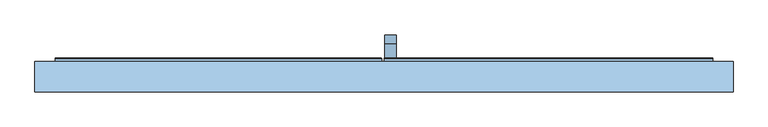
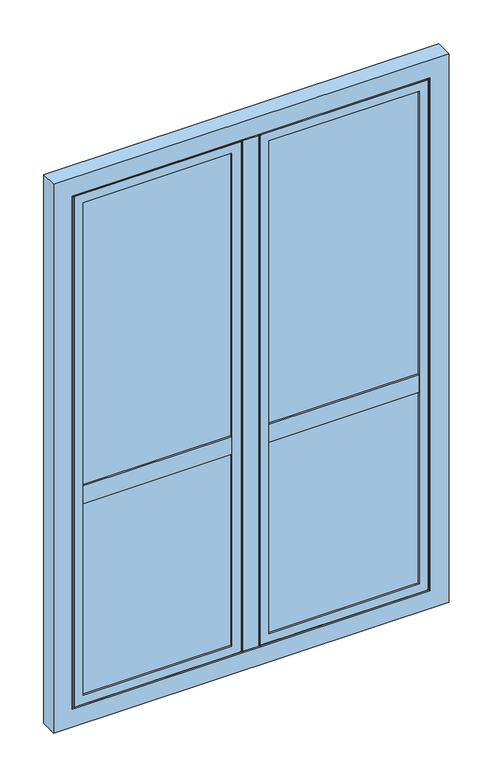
"""IFC4 building model written with IfcOpenShell, lengths in millimetres: window geometry, 900.04.011 : 900.04.011."""

from ifc_helpers import new_model, si_unit, frame, origin, place, context, project, spatial, polyline, circle_curve, ellipse_curve, outline, extrude, faceted_brep, source, transform, mapped, element, save
from ifc_brep_helpers import plane_surface, cylinder_surface, advanced_brep


def window_418a830e(model_context):
    return source(origin(), model_context, "Body", "SolidModel", [
        extrude(outline(polyline([(-22.4982697, 25.5101586), (6.0023191, 25.5101586), (6.0023191, -34.4877906), (27.9994394, -34.4877906), (27.9994394, -39.9913207), (-33.0005606, -39.9913207), (-33.0005606, -34.4877906), (-22.4983917, -34.4877906), (-22.4982697, 25.5101586)])), frame((0.0, 0.0, 886.5032713), z_axis=(0.0, 0.0, 1.0), x_axis=(1.0, 0.0, 0.0)), (0.0, 0.0, 1.0), 2046.9934575),
        advanced_brep(
        [(-706.4943766, 30.9980762, 2966.4943766), (-706.4943766, 30.9980762, 853.5056234), (-706.4943766, 25.0022411, 853.5056234), (-706.4943766, 25.0022411, 2966.4943766), (-5.0, 25.0022411, 853.5056234), (-5.0, 25.0022411, 2966.4943766), (-688.9942671, 25.0022411, 2948.9942671), (-22.5001095, 25.0022411, 2948.9942671), (-22.5001095, 25.0022411, 871.0057329), (-688.9942671, 25.0022411, 871.0057329), (-5.0, 30.9980762, 853.5056234), (-704.4943766, 32.9980762, 2964.4943766), (-704.4943766, 32.9980762, 855.5056234), (-688.9942671, -34.4972938, 871.0057329), (-688.9942671, -34.4972938, 2948.9942671), (-22.5001095, -34.4972938, 871.0057329), (-22.5001095, -34.4972938, 2948.9942671), (-673.5166787, -34.4972938, 2933.5166787), (-37.9776978, -34.4972938, 2933.5166787), (-37.9776978, -34.4972938, 886.4833213), (-673.5166787, -34.4972938, 886.4833213), (-673.5166787, -39.2009026, 886.4833213), (-673.5166787, -39.2009026, 2933.5166787), (-672.7166787, -40.0009026, 887.2833213), (-672.7166787, -40.0009026, 2932.7166787), (-37.9776978, -39.2009026, 886.4833213), (-637.9942611, -40.0009026, 2897.9942611), (-637.9942611, -40.0009026, 922.0057389), (-637.9942611, -33.0034813, 922.0057389), (-637.9942611, -33.0034813, 1690.0), (-637.9942611, -39.5003601, 1690.0), (-637.9942611, -39.5003601, 1761.5999386), (-637.9942611, -33.0034813, 1761.5999386), (-637.9942611, -33.0034813, 2897.9942611), (-652.9945196, -33.0034813, 907.0054804), (-652.9945196, -33.0034813, 1705.0002585), (-58.499857, -33.0034813, 1705.0002585), (-58.499857, -33.0034813, 907.0054804), (-73.5001155, -33.0034813, 922.0057389), (-73.5001155, -33.0034813, 1690.0), (-58.499857, -33.0034813, 2912.9945196), (-58.499857, -33.0034813, 1746.9998155), (-652.9945196, -33.0034813, 1746.9998155), (-652.9945196, -33.0034813, 2912.9945196), (-73.5001155, -33.0034813, 1761.5999386), (-73.5001155, -33.0034813, 2897.9942611), (-73.5001155, -40.0009026, 922.0057389), (-38.7776978, -40.0009026, 887.2833213), (-38.7776978, -40.0009026, 2932.7166787), (-73.5001155, -40.0009026, 2897.9942611), (-652.9945196, 4.9964364, 1746.9998155), (-652.9945196, 4.9964364, 2912.9945196), (-652.9945196, 4.9964364, 1705.0002585), (-652.9945196, 4.9964364, 907.0054804), (-58.499857, 4.9964364, 1746.9998155), (-58.499857, 4.9964364, 2912.9945196), (-637.9942611, 4.9964364, 2897.9942611), (-73.5001155, 4.9964364, 2897.9942611), (-73.5001155, 4.9964364, 1761.5999386), (-637.9942611, 4.9964364, 1761.5999386), (-58.499857, 4.9964364, 907.0054804), (-58.499857, 4.9964364, 1705.0002585), (-73.5001155, 4.9964364, 922.0057389), (-637.9942611, 4.9964364, 922.0057389), (-637.9942611, 4.9964364, 1690.0), (-73.5001155, 4.9964364, 1690.0), (-637.9942611, 25.0, 1761.5999386), (-637.9942611, 25.0, 1690.0), (-637.9942611, 32.9980762, 922.0057389), (-637.9942611, 32.9980762, 2897.9942611), (-7.0, 32.9980762, 2964.4943766), (-7.0, 32.9980762, 855.5056234), (-73.5001155, 32.9980762, 922.0057389), (-73.5001155, 32.9980762, 2897.9942611), (-5.0, 30.9980762, 2966.4943766), (-37.9776978, -39.2009026, 2933.5166787), (-73.5001155, -39.5003601, 1761.5999386), (-73.5001155, -39.5003601, 1690.0), (-73.5001155, 25.0, 1690.0), (-73.5001155, 25.0, 1761.5999386)],
        [
            (0, 1),
            (1, 2),
            (2, 3),
            (3, 0),
            (2, 4),
            (4, 5),
            (5, 3),
            (6, 7),
            (7, 8),
            (8, 9),
            (9, 6),
            (1, 10),
            (10, 4),
            (0, 11, ellipse_curve(frame((-704.4943766, 30.9980762, 2964.4943766), z_axis=(-0.7071067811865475, 0.0, -0.7071067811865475), x_axis=(-0.7071067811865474, 0.0, 0.7071067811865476)), 2.8284271, 2.0)),
            (11, 12),
            (12, 1, ellipse_curve(frame((-704.4943766, 30.9980762, 855.5056234), z_axis=(-0.7071067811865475, 0.0, 0.7071067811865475), x_axis=(0.7071067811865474, 0.0, 0.7071067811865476)), 2.8284271, 2.0)),
            (9, 13),
            (13, 14),
            (14, 6),
            (13, 15),
            (15, 16),
            (16, 14),
            (17, 18),
            (18, 19),
            (19, 20),
            (20, 17),
            (8, 15),
            (20, 21),
            (21, 22),
            (22, 17),
            (21, 23, ellipse_curve(frame((-672.7166787, -39.2009026, 887.2833213), z_axis=(-0.7071067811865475, 0.0, 0.7071067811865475), x_axis=(0.7071067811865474, 0.0, 0.7071067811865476)), 1.1313708, 0.8)),
            (23, 24),
            (24, 22, ellipse_curve(frame((-672.7166787, -39.2009026, 2932.7166787), z_axis=(-0.7071067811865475, 0.0, -0.7071067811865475), x_axis=(-0.7071067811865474, 0.0, 0.7071067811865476)), 1.1313708, 0.8)),
            (19, 25),
            (25, 21),
            (26, 27),
            (27, 28),
            (28, 29),
            (29, 30),
            (30, 31),
            (31, 32),
            (32, 33),
            (33, 26),
            (34, 35),
            (35, 36),
            (36, 37),
            (37, 34),
            (38, 39),
            (39, 29),
            (28, 38),
            (40, 41),
            (41, 42),
            (42, 43),
            (43, 40),
            (32, 44),
            (44, 45),
            (45, 33),
            (27, 46),
            (46, 38),
            (23, 47),
            (47, 48),
            (48, 24),
            (26, 49),
            (49, 46),
            (42, 50),
            (50, 51),
            (51, 43),
            (52, 35),
            (34, 53),
            (53, 52),
            (50, 54),
            (54, 55),
            (55, 51),
            (56, 57),
            (57, 58),
            (58, 59),
            (59, 56),
            (60, 61),
            (61, 52),
            (53, 60),
            (62, 63),
            (63, 64),
            (64, 65),
            (65, 62),
            (37, 60),
            (59, 66),
            (66, 67),
            (67, 64),
            (63, 68),
            (68, 69),
            (69, 56),
            (11, 70),
            (70, 71),
            (71, 12),
            (68, 72),
            (72, 73),
            (73, 69),
            (62, 72),
            (10, 74),
            (74, 5),
            (71, 10, ellipse_curve(frame((-7.0, 30.9980762, 855.5056234), z_axis=(-0.7071067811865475, 0.0, -0.7071067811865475), x_axis=(-0.7071067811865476, 0.0, 0.7071067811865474)), 2.8284271, 2.0)),
            (7, 16),
            (25, 47, ellipse_curve(frame((-38.7776978, -39.2009026, 887.2833213), z_axis=(-0.7071067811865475, 0.0, -0.7071067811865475), x_axis=(-0.7071067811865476, 0.0, 0.7071067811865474)), 1.1313708, 0.8)),
            (18, 75),
            (75, 25),
            (49, 45),
            (44, 76),
            (76, 77),
            (77, 39),
            (36, 61),
            (54, 41),
            (40, 55),
            (65, 78),
            (78, 79),
            (79, 58),
            (57, 73),
            (70, 74, ellipse_curve(frame((-7.0, 30.9980762, 2964.4943766), z_axis=(0.7071067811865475, 0.0, -0.7071067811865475), x_axis=(-0.7071067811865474, 0.0, -0.7071067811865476)), 2.8284271, 2.0)),
            (75, 48, ellipse_curve(frame((-38.7776978, -39.2009026, 2932.7166787), z_axis=(0.7071067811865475, 0.0, -0.7071067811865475), x_axis=(-0.7071067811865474, 0.0, -0.7071067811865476)), 1.1313708, 0.8)),
            (74, 0),
            (22, 75),
            (67, 78),
            (79, 66),
            (31, 76),
            (30, 77),
        ],
        [
            plane_surface(frame((-706.4943766, 25.0022411, 2966.4943766), z_axis=(-1.0, 0.0, 0.0), x_axis=(0.0, 0.0, -1.0))),
            plane_surface(frame((-22.5001095, 25.0022411, 2948.9942671), z_axis=(0.0, -1.0, 0.0), x_axis=(-1.0, 0.0, 0.0))),
            plane_surface(frame((-706.4943766, 25.0022411, 853.5056234), z_axis=(0.0, 0.0, -1.0), x_axis=(1.0, 0.0, 0.0))),
            cylinder_surface(frame((-704.4943766, 30.9980762, 3010.0), z_axis=(0.0, 0.0, 1.0), x_axis=(-1.0, 0.0, 0.0)), 2.0),
            plane_surface(frame((-688.9942671, -34.4972938, 2948.9942671), z_axis=(-1.0, 0.0, 0.0), x_axis=(0.0, 0.0, -1.0))),
            plane_surface(frame((-37.9776978, -34.4972938, 2933.5166787), z_axis=(0.0, -1.0, 0.0), x_axis=(-1.0, 0.0, 0.0))),
            plane_surface(frame((-688.9942671, -34.4972938, 871.0057329), z_axis=(0.0, 0.0, -1.0), x_axis=(1.0, 0.0, 0.0))),
            plane_surface(frame((-673.5166787, -39.2009026, 2933.5166787), z_axis=(-1.0, 0.0, 0.0), x_axis=(0.0, 0.0, -1.0))),
            cylinder_surface(frame((-672.7166787, -39.2009026, 3010.0), z_axis=(0.0, 0.0, 1.0), x_axis=(0.0, -1.0, 0.0)), 0.8),
            plane_surface(frame((-673.5166787, -39.2009026, 886.4833213), z_axis=(0.0, 0.0, -1.0), x_axis=(1.0, 0.0, 0.0))),
            plane_surface(frame((-637.9942611, -33.0034813, 2897.9942611), z_axis=(1.0, 0.0, 0.0), x_axis=(0.0, 0.0, -1.0))),
            plane_surface(frame((-58.499857, -33.0034813, 2912.9945196), z_axis=(0.0, 1.0, 0.0), x_axis=(-1.0, 0.0, 0.0))),
            plane_surface(frame((-637.9942611, -33.0034813, 922.0057389), z_axis=(0.0, 0.0, 1.0), x_axis=(1.0, 0.0, 0.0))),
            plane_surface(frame((-73.5001155, -40.0009026, 2897.9942611), z_axis=(0.0, -1.0, 0.0), x_axis=(-1.0, 0.0, 0.0))),
            plane_surface(frame((-652.9945196, 4.9964364, 2912.9945196), z_axis=(1.0, 0.0, 0.0), x_axis=(0.0, 0.0, -1.0))),
            plane_surface(frame((-73.5001155, 4.9964364, 2897.9942611), z_axis=(0.0, -1.0, 0.0), x_axis=(-1.0, 0.0, 0.0))),
            plane_surface(frame((-652.9945196, 4.9964364, 907.0054804), z_axis=(0.0, 0.0, 1.0), x_axis=(1.0, 0.0, 0.0))),
            plane_surface(frame((-637.9942611, 32.9980762, 2897.9942611), z_axis=(1.0, 0.0, 0.0), x_axis=(0.0, 0.0, -1.0))),
            plane_surface(frame((-7.0, 32.9980762, 2964.4943766), z_axis=(0.0, 1.0, 0.0), x_axis=(-1.0, 0.0, 0.0))),
            plane_surface(frame((-637.9942611, 32.9980762, 922.0057389), z_axis=(0.0, 0.0, 1.0), x_axis=(1.0, 0.0, 0.0))),
            plane_surface(frame((-5.0, 25.0022411, 853.5056234), z_axis=(1.0, 0.0, 0.0), x_axis=(0.0, 0.0, 1.0))),
            cylinder_surface(frame((-750.0, 30.9980762, 855.5056234), z_axis=(-1.0, 0.0, 0.0), x_axis=(0.0, 0.0, -1.0)), 2.0),
            plane_surface(frame((-22.5001095, -34.4972938, 871.0057329), z_axis=(1.0, 0.0, 0.0), x_axis=(0.0, 0.0, 1.0))),
            cylinder_surface(frame((-750.0, -39.2009026, 887.2833213), z_axis=(-1.0, 0.0, 0.0), x_axis=(0.0, -1.0, 0.0)), 0.8),
            plane_surface(frame((-37.9776978, -39.2009026, 886.4833213), z_axis=(1.0, 0.0, 0.0), x_axis=(0.0, 0.0, 1.0))),
            plane_surface(frame((-73.5001155, -33.0034813, 922.0057389), z_axis=(-1.0, 0.0, 0.0), x_axis=(0.0, 0.0, 1.0))),
            plane_surface(frame((-58.499857, 4.9964364, 907.0054804), z_axis=(-1.0, 0.0, 0.0), x_axis=(0.0, 0.0, 1.0))),
            plane_surface(frame((-73.5001155, 32.9980762, 922.0057389), z_axis=(-1.0, 0.0, 0.0), x_axis=(0.0, 0.0, 1.0))),
            cylinder_surface(frame((-7.0, 30.9980762, 810.0), z_axis=(0.0, 0.0, -1.0), x_axis=(1.0, 0.0, 0.0)), 2.0),
            cylinder_surface(frame((-38.7776978, -39.2009026, 810.0), z_axis=(0.0, 0.0, -1.0), x_axis=(0.0, -1.0, 0.0)), 0.8),
            plane_surface(frame((-5.0, 25.0022411, 2966.4943766), z_axis=(0.0, 0.0, 1.0), x_axis=(-1.0, 0.0, 0.0))),
            plane_surface(frame((-22.5001095, -34.4972938, 2948.9942671), z_axis=(0.0, 0.0, 1.0), x_axis=(-1.0, 0.0, 0.0))),
            plane_surface(frame((-37.9776978, -39.2009026, 2933.5166787), z_axis=(0.0, 0.0, 1.0), x_axis=(-1.0, 0.0, 0.0))),
            plane_surface(frame((-73.5001155, -33.0034813, 2897.9942611), z_axis=(0.0, 0.0, -1.0), x_axis=(-1.0, 0.0, 0.0))),
            plane_surface(frame((-58.499857, 4.9964364, 2912.9945196), z_axis=(0.0, 0.0, -1.0), x_axis=(-1.0, 0.0, 0.0))),
            plane_surface(frame((-73.5001155, 32.9980762, 2897.9942611), z_axis=(0.0, 0.0, -1.0), x_axis=(-1.0, 0.0, 0.0))),
            cylinder_surface(frame((38.5056234, 30.9980762, 2964.4943766), z_axis=(1.0, 0.0, 0.0), x_axis=(0.0, 0.0, 1.0)), 2.0),
            cylinder_surface(frame((38.5056234, -39.2009026, 2932.7166787), z_axis=(1.0, 0.0, 0.0), x_axis=(0.0, -1.0, 0.0)), 0.8),
            plane_surface(frame((-652.9945696, -32.9965039, 1705.0002585), z_axis=(0.0, 0.0, -1.0), x_axis=(1.0, 0.0, 0.0))),
            plane_surface(frame((-652.9945696, 5.0034961, 1690.0), z_axis=(0.0, 0.0, -1.0), x_axis=(1.0, 0.0, 0.0))),
            plane_surface(frame((-652.9945696, 25.0, 1761.5999386), z_axis=(0.0, 0.0, 1.0), x_axis=(1.0, 0.0, 0.0))),
            plane_surface(frame((-652.9945696, 5.0034961, 1746.9998155), z_axis=(0.0, 0.0, 1.0), x_axis=(1.0, 0.0, 0.0))),
            plane_surface(frame((-652.9945696, -32.9965039, 1761.5999386), z_axis=(0.0, 0.0, 1.0), x_axis=(1.0, 0.0, 0.0))),
            plane_surface(frame((-652.9945696, -39.5003601, 1761.5999386), z_axis=(0.0, -1.0, 0.0), x_axis=(1.0, 0.0, 0.0))),
            plane_surface(frame((-652.9945696, -39.5003601, 1690.0), z_axis=(0.0, 0.0, -1.0), x_axis=(1.0, 0.0, 0.0))),
            plane_surface(frame((-652.9945696, 25.0, 1690.0), z_axis=(0.0, 1.0, 0.0), x_axis=(1.0, 0.0, 0.0))),
        ],
        [
            (0, [[1, 2, 3, 4]]),
            (1, [[5, 6, 7, -3], [8, 9, 10, 11]]),
            (2, [[12, 13, -5, -2]]),
            (3, [[14, 15, 16, -1]]),
            (4, [[-11, 17, 18, 19]]),
            (5, [[20, 21, 22, -18], [23, 24, 25, 26]]),
            (6, [[-10, 27, -20, -17]]),
            (7, [[-26, 28, 29, 30]]),
            (8, [[31, 32, 33, -29]]),
            (9, [[-25, 34, 35, -28]]),
            (10, [[36, 37, 38, 39, 40, 41, 42, 43]]),
            (11, [[44, 45, 46, 47], [48, 49, -38, 50]]),
            (11, [[51, 52, 53, 54], [-42, 55, 56, 57]]),
            (12, [[58, 59, -50, -37]]),
            (13, [[-32, 60, 61, 62], [63, 64, -58, -36]]),
            (14, [[65, 66, 67, -53]]),
            (14, [[68, -44, 69, 70]]),
            (15, [[-66, 71, 72, 73], [74, 75, 76, 77]]),
            (15, [[78, 79, -70, 80], [81, 82, 83, 84]]),
            (16, [[-47, 85, -80, -69]]),
            (17, [[-77, 86, 87, 88, -82, 89, 90, 91]]),
            (18, [[-15, 92, 93, 94], [95, 96, 97, -90]]),
            (19, [[-81, 98, -95, -89]]),
            (20, [[99, 100, -6, -13]]),
            (21, [[-16, -94, 101, -12]]),
            (22, [[-9, 102, -21, -27]]),
            (23, [[103, -60, -31, -35]]),
            (24, [[-24, 104, 105, -34]]),
            (25, [[-64, 106, -56, 107, 108, 109, -48, -59]]),
            (26, [[110, -78, -85, -46]]),
            (26, [[111, -51, 112, -72]]),
            (27, [[-84, 113, 114, 115, -75, 116, -96, -98]]),
            (28, [[-101, -93, 117, -99]]),
            (29, [[118, -61, -103, -105]]),
            (30, [[-7, -100, 119, -4]]),
            (31, [[-22, -102, -8, -19]]),
            (32, [[120, -104, -23, -30]]),
            (33, [[-57, -106, -63, -43]]),
            (34, [[-73, -112, -54, -67]]),
            (35, [[-97, -116, -74, -91]]),
            (36, [[-117, -92, -14, -119]]),
            (37, [[-33, -62, -118, -120]]),
            (38, [[-68, -79, -110, -45]]),
            (39, [[-88, 121, -113, -83]]),
            (40, [[-115, 122, -86, -76]]),
            (41, [[-111, -71, -65, -52]]),
            (42, [[-41, 123, -107, -55]]),
            (43, [[-40, 124, -108, -123]]),
            (44, [[-109, -124, -39, -49]]),
            (45, [[-87, -122, -114, -121]]),
        ],
    ),
        extrude(outline(polyline([(-58.499807, 4.9964364), (-58.499807, -33.0034813), (-652.9945696, -33.0034813), (-652.9945696, 4.9964364), (-58.499807, 4.9964364)])), frame((0.0, 0.0, 1746.9998155), z_axis=(0.0, 0.0, 1.0), x_axis=(1.0, 0.0, 0.0)), (0.0, 0.0, 1.0), 1165.9947541),
        extrude(outline(polyline([(-652.9945696, -33.0034813), (-652.9945696, 4.9964364), (-58.499807, 4.9964364), (-58.499807, -33.0034813), (-652.9945696, -33.0034813)])), frame((0.0, 0.0, 907.0054304), z_axis=(0.0, 0.0, 1.0), x_axis=(1.0, 0.0, 0.0)), (0.0, 0.0, 1.0), 782.9945696),
        advanced_brep(
        [(1.400143, 32.9958929, 1690.0), (26.400143, 32.9958929, 1690.0), (1.400143, 62.9958929, 1690.0), (26.400143, 62.9958929, 1690.0), (1.400143, 82.9958929, 1690.0), (26.400143, 82.9958929, 1690.0), (26.400143, 82.9958929, 1490.0), (1.400143, 82.9958929, 1490.0), (1.400143, 62.9958929, 1490.0), (26.400143, 62.9958929, 1490.0)],
        [
            (0, 1, circle_curve(frame((13.900143, 32.9958929, 1690.0), z_axis=(0.0, -1.0, 0.0), x_axis=(1.0, 0.0, 0.0)), 12.5)),
            (1, 0, circle_curve(frame((13.900143, 32.9958929, 1690.0), z_axis=(0.0, -1.0, 0.0), x_axis=(1.0, 0.0, 0.0)), 12.5)),
            (0, 2),
            (2, 3, circle_curve(frame((13.900143, 62.9958929, 1690.0), z_axis=(0.0, -1.0, 0.0), x_axis=(1.0, 0.0, 0.0)), 12.5)),
            (3, 1),
            (3, 2, circle_curve(frame((13.900143, 62.9958929, 1690.0), z_axis=(0.0, -1.0, 0.0), x_axis=(1.0, 0.0, 0.0)), 12.5)),
            (4, 5, circle_curve(frame((13.900143, 82.9958929, 1690.0), z_axis=(0.0, 1.0, 0.0), x_axis=(1.0, 0.0, 0.0)), 12.5)),
            (5, 6),
            (6, 7, circle_curve(frame((13.900143, 82.9958929, 1490.0), z_axis=(0.0, 1.0, 0.0), x_axis=(1.0, 0.0, 0.0)), 12.5)),
            (7, 4),
            (2, 8),
            (8, 9, circle_curve(frame((13.900143, 62.9958929, 1490.0), z_axis=(0.0, -1.0, 0.0), x_axis=(1.0, 0.0, 0.0)), 12.5)),
            (9, 3),
            (7, 8),
            (2, 4),
            (6, 9),
            (5, 3),
        ],
        [
            plane_surface(frame((26.400143, 32.9958929, 1690.0), z_axis=(0.0, -1.0, 0.0), x_axis=(0.0, 0.0, -1.0))),
            cylinder_surface(frame((13.900143, 32.9958929, 1690.0), z_axis=(0.0, 1.0, 0.0), x_axis=(1.0, 0.0, 0.0)), 12.5),
            plane_surface(frame((1.400143, 82.9958929, 1690.0), z_axis=(0.0, 1.0, 0.0), x_axis=(0.0, 0.0, -1.0))),
            plane_surface(frame((1.400143, 62.9958929, 1690.0), z_axis=(0.0, -1.0, 0.0), x_axis=(0.0, 0.0, 1.0))),
            plane_surface(frame((1.400143, 82.9958929, 1690.0), z_axis=(-1.0, 0.0, 0.0), x_axis=(0.0, -1.0, 0.0))),
            cylinder_surface(frame((13.900143, 62.9958929, 1490.0), z_axis=(0.0, 1.0, 0.0), x_axis=(1.0, 0.0, 0.0)), 12.5),
            plane_surface(frame((26.400143, 82.9958929, 1490.0), z_axis=(1.0, 0.0, 0.0), x_axis=(0.0, -1.0, 0.0))),
            cylinder_surface(frame((13.900143, 62.9958929, 1690.0), z_axis=(0.0, 1.0, 0.0), x_axis=(1.0, 0.0, 0.0)), 12.5),
        ],
        [
            (0, [[1, 2]]),
            (1, [[3, 4, 5, -1]]),
            (1, [[-5, 6, -3, -2]]),
            (2, [[7, 8, 9, 10]]),
            (3, [[-4, 11, 12, 13]]),
            (4, [[14, -11, 15, -10]]),
            (5, [[16, -12, -14, -9]]),
            (6, [[17, -13, -16, -8]]),
            (7, [[-15, -6, -17, -7]]),
        ],
    ),
        advanced_brep(
        [(0.000193, 30.9980762, 2966.4943766), (0.000193, 30.9980762, 853.5056234), (0.000193, 25.0022411, 853.5056234), (0.000193, 25.0022411, 2966.4943766), (706.4943766, 25.0022411, 853.5056234), (706.4943766, 25.0022411, 2966.4943766), (17.5003025, 25.0022411, 2948.9942671), (688.9942671, 25.0022411, 2948.9942671), (688.9942671, 25.0022411, 871.0057329), (17.5003025, 25.0022411, 871.0057329), (706.4943766, 30.9980762, 853.5056234), (2.000193, 32.9980762, 2964.4943766), (2.000193, 32.9980762, 855.5056234), (17.5003025, -34.4972938, 871.0057329), (17.5003025, -34.4972938, 2948.9942671), (688.9942671, -34.4972938, 871.0057329), (688.9942671, -34.4972938, 2948.9942671), (32.9778909, -34.4972938, 2933.5166787), (673.5166787, -34.4972938, 2933.5166787), (673.5166787, -34.4972938, 886.4833213), (32.9778909, -34.4972938, 886.4833213), (32.9778909, -39.2009026, 886.4833213), (32.9778909, -39.2009026, 2933.5166787), (33.7778909, -40.0009026, 887.2833213), (33.7778909, -40.0009026, 2932.7166787), (673.5166787, -39.2009026, 886.4833213), (68.5003085, -40.0009026, 2897.9942611), (68.5003085, -40.0009026, 922.0057389), (68.5003085, -33.0034813, 922.0057389), (68.5003085, -33.0034813, 1690.0), (68.5003085, -39.5003601, 1690.0), (68.5003085, -39.5003601, 1761.5999386), (68.5003085, -33.0034813, 1761.5999386), (68.5003085, -33.0034813, 2897.9942611), (53.5000501, -33.0034813, 907.0054804), (53.5000501, -33.0034813, 1705.0002585), (652.9945196, -33.0034813, 1705.0002585), (652.9945196, -33.0034813, 907.0054804), (637.9942611, -33.0034813, 922.0057389), (637.9942611, -33.0034813, 1690.0), (652.9945196, -33.0034813, 2912.9945196), (652.9945196, -33.0034813, 1746.9998155), (53.5000501, -33.0034813, 1746.9998155), (53.5000501, -33.0034813, 2912.9945196), (637.9942611, -33.0034813, 1761.5999386), (637.9942611, -33.0034813, 2897.9942611), (637.9942611, -40.0009026, 922.0057389), (672.7166787, -40.0009026, 887.2833213), (672.7166787, -40.0009026, 2932.7166787), (637.9942611, -40.0009026, 2897.9942611), (53.5000501, 4.9964364, 1746.9998155), (53.5000501, 4.9964364, 2912.9945196), (53.5000501, 4.9964364, 1705.0002585), (53.5000501, 4.9964364, 907.0054804), (652.9945196, 4.9964364, 1746.9998155), (652.9945196, 4.9964364, 2912.9945196), (68.5003085, 4.9964364, 2897.9942611), (637.9942611, 4.9964364, 2897.9942611), (637.9942611, 4.9964364, 1761.5999386), (68.5003085, 4.9964364, 1761.5999386), (652.9945196, 4.9964364, 907.0054804), (652.9945196, 4.9964364, 1705.0002585), (637.9942611, 4.9964364, 922.0057389), (68.5003085, 4.9964364, 922.0057389), (68.5003085, 4.9964364, 1690.0), (637.9942611, 4.9964364, 1690.0), (68.5003085, 25.0, 1761.5999386), (68.5003085, 25.0, 1690.0), (68.5003085, 32.9980762, 922.0057389), (68.5003085, 32.9980762, 2897.9942611), (704.4943766, 32.9980762, 2964.4943766), (704.4943766, 32.9980762, 855.5056234), (637.9942611, 32.9980762, 922.0057389), (637.9942611, 32.9980762, 2897.9942611), (706.4943766, 30.9980762, 2966.4943766), (673.5166787, -39.2009026, 2933.5166787), (637.9942611, -39.5003601, 1761.5999386), (637.9942611, -39.5003601, 1690.0), (637.9942611, 25.0, 1690.0), (637.9942611, 25.0, 1761.5999386)],
        [
            (0, 1),
            (1, 2),
            (2, 3),
            (3, 0),
            (2, 4),
            (4, 5),
            (5, 3),
            (6, 7),
            (7, 8),
            (8, 9),
            (9, 6),
            (1, 10),
            (10, 4),
            (0, 11, ellipse_curve(frame((2.000193, 30.9980762, 2964.4943766), z_axis=(-0.7071067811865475, 0.0, -0.7071067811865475), x_axis=(-0.7071067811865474, 0.0, 0.7071067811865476)), 2.8284271, 2.0)),
            (11, 12),
            (12, 1, ellipse_curve(frame((2.000193, 30.9980762, 855.5056234), z_axis=(-0.7071067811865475, 0.0, 0.7071067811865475), x_axis=(0.7071067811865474, 0.0, 0.7071067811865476)), 2.8284271, 2.0)),
            (9, 13),
            (13, 14),
            (14, 6),
            (13, 15),
            (15, 16),
            (16, 14),
            (17, 18),
            (18, 19),
            (19, 20),
            (20, 17),
            (8, 15),
            (20, 21),
            (21, 22),
            (22, 17),
            (21, 23, ellipse_curve(frame((33.7778909, -39.2009026, 887.2833213), z_axis=(-0.7071067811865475, 0.0, 0.7071067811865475), x_axis=(0.7071067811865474, 0.0, 0.7071067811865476)), 1.1313708, 0.8)),
            (23, 24),
            (24, 22, ellipse_curve(frame((33.7778909, -39.2009026, 2932.7166787), z_axis=(-0.7071067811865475, 0.0, -0.7071067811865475), x_axis=(-0.7071067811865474, 0.0, 0.7071067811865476)), 1.1313708, 0.8)),
            (19, 25),
            (25, 21),
            (26, 27),
            (27, 28),
            (28, 29),
            (29, 30),
            (30, 31),
            (31, 32),
            (32, 33),
            (33, 26),
            (34, 35),
            (35, 36),
            (36, 37),
            (37, 34),
            (38, 39),
            (39, 29),
            (28, 38),
            (40, 41),
            (41, 42),
            (42, 43),
            (43, 40),
            (32, 44),
            (44, 45),
            (45, 33),
            (27, 46),
            (46, 38),
            (23, 47),
            (47, 48),
            (48, 24),
            (26, 49),
            (49, 46),
            (42, 50),
            (50, 51),
            (51, 43),
            (52, 35),
            (34, 53),
            (53, 52),
            (50, 54),
            (54, 55),
            (55, 51),
            (56, 57),
            (57, 58),
            (58, 59),
            (59, 56),
            (60, 61),
            (61, 52),
            (53, 60),
            (62, 63),
            (63, 64),
            (64, 65),
            (65, 62),
            (37, 60),
            (59, 66),
            (66, 67),
            (67, 64),
            (63, 68),
            (68, 69),
            (69, 56),
            (11, 70),
            (70, 71),
            (71, 12),
            (68, 72),
            (72, 73),
            (73, 69),
            (62, 72),
            (10, 74),
            (74, 5),
            (71, 10, ellipse_curve(frame((704.4943766, 30.9980762, 855.5056234), z_axis=(-0.7071067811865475, 0.0, -0.7071067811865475), x_axis=(-0.7071067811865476, 0.0, 0.7071067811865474)), 2.8284271, 2.0)),
            (7, 16),
            (25, 47, ellipse_curve(frame((672.7166787, -39.2009026, 887.2833213), z_axis=(-0.7071067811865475, 0.0, -0.7071067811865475), x_axis=(-0.7071067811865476, 0.0, 0.7071067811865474)), 1.1313708, 0.8)),
            (18, 75),
            (75, 25),
            (49, 45),
            (44, 76),
            (76, 77),
            (77, 39),
            (36, 61),
            (54, 41),
            (40, 55),
            (65, 78),
            (78, 79),
            (79, 58),
            (57, 73),
            (70, 74, ellipse_curve(frame((704.4943766, 30.9980762, 2964.4943766), z_axis=(0.7071067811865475, 0.0, -0.7071067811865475), x_axis=(-0.7071067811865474, 0.0, -0.7071067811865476)), 2.8284271, 2.0)),
            (75, 48, ellipse_curve(frame((672.7166787, -39.2009026, 2932.7166787), z_axis=(0.7071067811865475, 0.0, -0.7071067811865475), x_axis=(-0.7071067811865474, 0.0, -0.7071067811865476)), 1.1313708, 0.8)),
            (74, 0),
            (22, 75),
            (79, 66),
            (31, 76),
            (30, 77),
            (67, 78),
        ],
        [
            plane_surface(frame((0.000193, 25.0022411, 2966.4943766), z_axis=(-1.0, 0.0, 0.0), x_axis=(0.0, 0.0, -1.0))),
            plane_surface(frame((688.9942671, 25.0022411, 2948.9942671), z_axis=(0.0, -1.0, 0.0), x_axis=(-1.0, 0.0, 0.0))),
            plane_surface(frame((0.000193, 25.0022411, 853.5056234), z_axis=(0.0, 0.0, -1.0), x_axis=(1.0, 0.0, 0.0))),
            cylinder_surface(frame((2.000193, 30.9980762, 3010.0), z_axis=(0.0, 0.0, 1.0), x_axis=(-1.0, 0.0, 0.0)), 2.0),
            plane_surface(frame((17.5003025, -34.4972938, 2948.9942671), z_axis=(-1.0, 0.0, 0.0), x_axis=(0.0, 0.0, -1.0))),
            plane_surface(frame((673.5166787, -34.4972938, 2933.5166787), z_axis=(0.0, -1.0, 0.0), x_axis=(-1.0, 0.0, 0.0))),
            plane_surface(frame((17.5003025, -34.4972938, 871.0057329), z_axis=(0.0, 0.0, -1.0), x_axis=(1.0, 0.0, 0.0))),
            plane_surface(frame((32.9778909, -39.2009026, 2933.5166787), z_axis=(-1.0, 0.0, 0.0), x_axis=(0.0, 0.0, -1.0))),
            cylinder_surface(frame((33.7778909, -39.2009026, 3010.0), z_axis=(0.0, 0.0, 1.0), x_axis=(0.0, -1.0, 0.0)), 0.8),
            plane_surface(frame((32.9778909, -39.2009026, 886.4833213), z_axis=(0.0, 0.0, -1.0), x_axis=(1.0, 0.0, 0.0))),
            plane_surface(frame((68.5003085, -33.0034813, 2897.9942611), z_axis=(1.0, 0.0, 0.0), x_axis=(0.0, 0.0, -1.0))),
            plane_surface(frame((652.9945196, -33.0034813, 2912.9945196), z_axis=(0.0, 1.0, 0.0), x_axis=(-1.0, 0.0, 0.0))),
            plane_surface(frame((68.5003085, -33.0034813, 922.0057389), z_axis=(0.0, 0.0, 1.0), x_axis=(1.0, 0.0, 0.0))),
            plane_surface(frame((637.9942611, -40.0009026, 2897.9942611), z_axis=(0.0, -1.0, 0.0), x_axis=(-1.0, 0.0, 0.0))),
            plane_surface(frame((53.5000501, 4.9964364, 2912.9945196), z_axis=(1.0, 0.0, 0.0), x_axis=(0.0, 0.0, -1.0))),
            plane_surface(frame((637.9942611, 4.9964364, 2897.9942611), z_axis=(0.0, -1.0, 0.0), x_axis=(-1.0, 0.0, 0.0))),
            plane_surface(frame((53.5000501, 4.9964364, 907.0054804), z_axis=(0.0, 0.0, 1.0), x_axis=(1.0, 0.0, 0.0))),
            plane_surface(frame((68.5003085, 32.9980762, 2897.9942611), z_axis=(1.0, 0.0, 0.0), x_axis=(0.0, 0.0, -1.0))),
            plane_surface(frame((704.4943766, 32.9980762, 2964.4943766), z_axis=(0.0, 1.0, 0.0), x_axis=(-1.0, 0.0, 0.0))),
            plane_surface(frame((68.5003085, 32.9980762, 922.0057389), z_axis=(0.0, 0.0, 1.0), x_axis=(1.0, 0.0, 0.0))),
            plane_surface(frame((706.4943766, 25.0022411, 853.5056234), z_axis=(1.0, 0.0, 0.0), x_axis=(0.0, 0.0, 1.0))),
            cylinder_surface(frame((-43.5054304, 30.9980762, 855.5056234), z_axis=(-1.0, 0.0, 0.0), x_axis=(0.0, 0.0, -1.0)), 2.0),
            plane_surface(frame((688.9942671, -34.4972938, 871.0057329), z_axis=(1.0, 0.0, 0.0), x_axis=(0.0, 0.0, 1.0))),
            cylinder_surface(frame((-43.5054304, -39.2009026, 887.2833213), z_axis=(-1.0, 0.0, 0.0), x_axis=(0.0, -1.0, 0.0)), 0.8),
            plane_surface(frame((673.5166787, -39.2009026, 886.4833213), z_axis=(1.0, 0.0, 0.0), x_axis=(0.0, 0.0, 1.0))),
            plane_surface(frame((637.9942611, -33.0034813, 922.0057389), z_axis=(-1.0, 0.0, 0.0), x_axis=(0.0, 0.0, 1.0))),
            plane_surface(frame((652.9945196, 4.9964364, 907.0054804), z_axis=(-1.0, 0.0, 0.0), x_axis=(0.0, 0.0, 1.0))),
            plane_surface(frame((637.9942611, 32.9980762, 922.0057389), z_axis=(-1.0, 0.0, 0.0), x_axis=(0.0, 0.0, 1.0))),
            cylinder_surface(frame((704.4943766, 30.9980762, 810.0), z_axis=(0.0, 0.0, -1.0), x_axis=(1.0, 0.0, 0.0)), 2.0),
            cylinder_surface(frame((672.7166787, -39.2009026, 810.0), z_axis=(0.0, 0.0, -1.0), x_axis=(0.0, -1.0, 0.0)), 0.8),
            plane_surface(frame((706.4943766, 25.0022411, 2966.4943766), z_axis=(0.0, 0.0, 1.0), x_axis=(-1.0, 0.0, 0.0))),
            plane_surface(frame((688.9942671, -34.4972938, 2948.9942671), z_axis=(0.0, 0.0, 1.0), x_axis=(-1.0, 0.0, 0.0))),
            plane_surface(frame((673.5166787, -39.2009026, 2933.5166787), z_axis=(0.0, 0.0, 1.0), x_axis=(-1.0, 0.0, 0.0))),
            plane_surface(frame((637.9942611, -33.0034813, 2897.9942611), z_axis=(0.0, 0.0, -1.0), x_axis=(-1.0, 0.0, 0.0))),
            plane_surface(frame((652.9945196, 4.9964364, 2912.9945196), z_axis=(0.0, 0.0, -1.0), x_axis=(-1.0, 0.0, 0.0))),
            plane_surface(frame((637.9942611, 32.9980762, 2897.9942611), z_axis=(0.0, 0.0, -1.0), x_axis=(-1.0, 0.0, 0.0))),
            cylinder_surface(frame((750.0, 30.9980762, 2964.4943766), z_axis=(1.0, 0.0, 0.0), x_axis=(0.0, 0.0, 1.0)), 2.0),
            cylinder_surface(frame((750.0, -39.2009026, 2932.7166787), z_axis=(1.0, 0.0, 0.0), x_axis=(0.0, -1.0, 0.0)), 0.8),
            plane_surface(frame((652.9945696, 5.0034961, 1761.5999386), z_axis=(0.0, 0.0, 1.0), x_axis=(-1.0, 0.0, 0.0))),
            plane_surface(frame((652.9945696, -32.9965039, 1746.9998155), z_axis=(0.0, 0.0, 1.0), x_axis=(-1.0, 0.0, 0.0))),
            plane_surface(frame((652.9945696, -39.5003601, 1761.5999386), z_axis=(0.0, 0.0, 1.0), x_axis=(-1.0, 0.0, 0.0))),
            plane_surface(frame((652.9945696, -39.5003601, 1690.0), z_axis=(0.0, -1.0, 0.0), x_axis=(-1.0, 0.0, 0.0))),
            plane_surface(frame((652.9945696, -32.9965039, 1690.0), z_axis=(0.0, 0.0, -1.0), x_axis=(-1.0, 0.0, 0.0))),
            plane_surface(frame((652.9945696, 5.0034961, 1705.0002585), z_axis=(0.0, 0.0, -1.0), x_axis=(-1.0, 0.0, 0.0))),
            plane_surface(frame((652.9945696, 25.0, 1690.0), z_axis=(0.0, 0.0, -1.0), x_axis=(-1.0, 0.0, 0.0))),
            plane_surface(frame((652.9945696, 25.0, 1761.5999386), z_axis=(0.0, 1.0, 0.0), x_axis=(-1.0, 0.0, 0.0))),
        ],
        [
            (0, [[1, 2, 3, 4]]),
            (1, [[5, 6, 7, -3], [8, 9, 10, 11]]),
            (2, [[12, 13, -5, -2]]),
            (3, [[14, 15, 16, -1]]),
            (4, [[-11, 17, 18, 19]]),
            (5, [[20, 21, 22, -18], [23, 24, 25, 26]]),
            (6, [[-10, 27, -20, -17]]),
            (7, [[-26, 28, 29, 30]]),
            (8, [[31, 32, 33, -29]]),
            (9, [[-25, 34, 35, -28]]),
            (10, [[36, 37, 38, 39, 40, 41, 42, 43]]),
            (11, [[44, 45, 46, 47], [48, 49, -38, 50]]),
            (11, [[51, 52, 53, 54], [-42, 55, 56, 57]]),
            (12, [[58, 59, -50, -37]]),
            (13, [[-32, 60, 61, 62], [63, 64, -58, -36]]),
            (14, [[65, 66, 67, -53]]),
            (14, [[68, -44, 69, 70]]),
            (15, [[-66, 71, 72, 73], [74, 75, 76, 77]]),
            (15, [[78, 79, -70, 80], [81, 82, 83, 84]]),
            (16, [[-47, 85, -80, -69]]),
            (17, [[-77, 86, 87, 88, -82, 89, 90, 91]]),
            (18, [[-15, 92, 93, 94], [95, 96, 97, -90]]),
            (19, [[-81, 98, -95, -89]]),
            (20, [[99, 100, -6, -13]]),
            (21, [[-16, -94, 101, -12]]),
            (22, [[-9, 102, -21, -27]]),
            (23, [[103, -60, -31, -35]]),
            (24, [[-24, 104, 105, -34]]),
            (25, [[-64, 106, -56, 107, 108, 109, -48, -59]]),
            (26, [[110, -78, -85, -46]]),
            (26, [[111, -51, 112, -72]]),
            (27, [[-84, 113, 114, 115, -75, 116, -96, -98]]),
            (28, [[-101, -93, 117, -99]]),
            (29, [[118, -61, -103, -105]]),
            (30, [[-7, -100, 119, -4]]),
            (31, [[-22, -102, -8, -19]]),
            (32, [[120, -104, -23, -30]]),
            (33, [[-57, -106, -63, -43]]),
            (34, [[-73, -112, -54, -67]]),
            (35, [[-97, -116, -74, -91]]),
            (36, [[-117, -92, -14, -119]]),
            (37, [[-33, -62, -118, -120]]),
            (38, [[-115, 121, -86, -76]]),
            (39, [[-111, -71, -65, -52]]),
            (40, [[-41, 122, -107, -55]]),
            (41, [[-108, -122, -40, 123]]),
            (42, [[-109, -123, -39, -49]]),
            (43, [[-68, -79, -110, -45]]),
            (44, [[-88, 124, -113, -83]]),
            (45, [[-114, -124, -87, -121]]),
        ],
    ),
        extrude(outline(polyline([(652.9945696, 4.9964364), (652.9945696, -33.0034813), (53.5, -33.0034813), (53.5, 4.9964364), (652.9945696, 4.9964364)])), frame((0.0, 0.0, 1746.9998155), z_axis=(0.0, 0.0, 1.0), x_axis=(1.0, 0.0, 0.0)), (0.0, 0.0, 1.0), 1165.9947541),
        extrude(outline(polyline([(652.9945696, 4.9964364), (652.9945696, -33.0034813), (53.5, -33.0034813), (53.5, 4.9964364), (652.9945696, 4.9964364)])), frame((0.0, 0.0, 907.0054304), z_axis=(0.0, 0.0, 1.0), x_axis=(1.0, 0.0, 0.0)), (0.0, 0.0, 1.0), 797.9948281),
        faceted_brep([(-678.5000448, -40.0601119, 2938.5000448), (-678.5000448, -40.0601119, 881.4999552), (-678.5000448, -35.4974884, 881.4999552), (-678.5000448, -35.4974884, 2938.5000448), (-700.499939, -35.4974884, 859.500061), (-700.499939, -35.4974884, 2960.499939), (700.499939, -35.4974884, 2960.499939), (700.499939, -35.4974884, 859.500061), (678.5000448, -35.4974884, 881.4999552), (678.5000448, -35.4974884, 2938.5000448), (678.5000448, -40.0601119, 881.4999552), (-750.0, -40.0601119, 3010.0), (-750.0, -40.0601119, 810.0), (750.0, -40.0601119, 810.0), (750.0, -40.0601119, 3010.0), (678.5000448, -40.0601119, 2938.5000448), (-750.0, 25.0, 3010.0), (-750.0, 25.0, 810.0), (750.0, 25.0, 810.0), (750.0, 25.0, 3010.0), (-700.499939, 25.0, 2960.499939), (-700.499939, 25.0, 859.500061), (700.499939, 25.0, 859.500061), (700.499939, 25.0, 2960.499939)], [[[0, 1, 2, 3]], [[4, 5, 6, 7], [3, 2, 8, 9]], [[1, 10, 8, 2]], [[11, 12, 13, 14], [1, 0, 15, 10]], [[16, 17, 12, 11]], [[17, 18, 13, 12]], [[17, 16, 19, 18], [20, 21, 22, 23]], [[5, 4, 21, 20]], [[4, 7, 22, 21]], [[10, 15, 9, 8]], [[18, 19, 14, 13]], [[7, 6, 23, 22]], [[15, 0, 3, 9]], [[19, 16, 11, 14]], [[6, 5, 20, 23]]]),
    ])


if __name__ == "__main__":
    model = new_model("IFC4")
    model_context = context("Model", 3, world=origin())
    ifc_project = project(units=[si_unit("LENGTHUNIT", "METRE", prefix="MILLI")], contexts=[model_context])
    site = spatial("IfcSite", under=ifc_project)
    building = spatial("IfcBuilding", under=site)
    placement = place(None, origin())
    window_shape = window_418a830e(model_context)
    element("IfcWindow", 1, ObjectType="900.04.011 : 900.04.011", at=placement, inside=building, context=model_context, shape_type="MappedRepresentation", body=[
        mapped(window_shape, transform((0.0, 0.0, 0.0), x_axis=(1.0, 0.0, 0.0), y_axis=(0.0, 1.0, 0.0), z_axis=(0.0, 0.0, 1.0))),
    ])
    save(model, "model.ifc")
